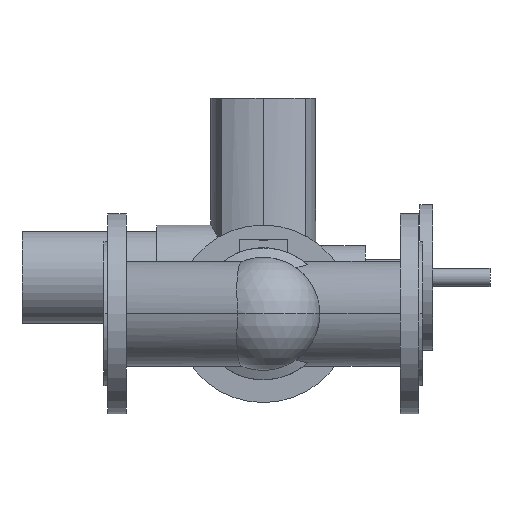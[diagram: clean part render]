
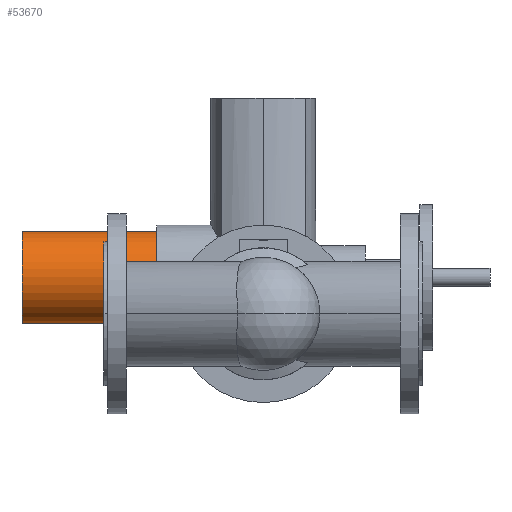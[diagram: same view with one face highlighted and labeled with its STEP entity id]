
A CAD part, front view. The second image highlights one B-rep face of the part: STEP entity #53670.
In plain terms, the highlighted cylindrical face has radius 50.5 mm (diameter 101 mm), a partial arc.
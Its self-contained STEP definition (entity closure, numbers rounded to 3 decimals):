
#53120=CARTESIAN_POINT('',(-16.,699.2,40.));
#53130=DIRECTION('',(1.,0.,0.));
#53140=DIRECTION('',(0.,0.,-1.));
#53150=AXIS2_PLACEMENT_3D('',#53120,#53130,#53140);
#53160=CYLINDRICAL_SURFACE('',#53150,50.5);
#53170=CARTESIAN_POINT('',(-16.,699.2,90.5));
#53180=DIRECTION('',(1.,0.,0.));
#53190=VECTOR('',#53180,1.);
#53200=LINE('',#53170,#53190);
#53210=CARTESIAN_POINT('',(-90.,699.2,90.5));
#53220=VERTEX_POINT('',#53210);
#53230=CARTESIAN_POINT('',(58.,699.2,90.5));
#53240=VERTEX_POINT('',#53230);
#53250=SURFACE_CURVE('',#53200,(#53160,#53160),.CURVE_3D.);
#53260=EDGE_CURVE('',#53220,#53240,#53250,.T.);
#53270=ORIENTED_EDGE('',*,*,#53260,.F.);
#53280=CARTESIAN_POINT('',(58.,699.2,40.));
#53290=DIRECTION('',(-1.,0.,0.));
#53300=DIRECTION('',(0.,0.,-1.));
#53310=AXIS2_PLACEMENT_3D('',#53280,#53290,#53300);
#53320=CIRCLE('',#53310,50.5);
#53330=CARTESIAN_POINT('',(58.,699.2,-10.5));
#53340=VERTEX_POINT('',#53330);
#53350=CARTESIAN_POINT('',(58.,699.2,-14.));
#53360=DIRECTION('',(-1.,0.,0.));
#53370=DIRECTION('',(0.,0.,-1.));
#53380=AXIS2_PLACEMENT_3D('',#53350,#53360,#53370);
#53390=PLANE('',#53380);
#53400=SURFACE_CURVE('',#53320,(#53390,#53160),.CURVE_3D.);
#53410=EDGE_CURVE('',#53340,#53240,#53400,.T.);
#53420=ORIENTED_EDGE('',*,*,#53410,.T.);
#53430=CARTESIAN_POINT('',(-16.,699.2,-10.5));
#53440=DIRECTION('',(1.,0.,0.));
#53450=VECTOR('',#53440,1.);
#53460=LINE('',#53430,#53450);
#53470=CARTESIAN_POINT('',(-90.,699.2,-10.5));
#53480=VERTEX_POINT('',#53470);
#53490=SURFACE_CURVE('',#53460,(#53160,#53160),.CURVE_3D.);
#53500=EDGE_CURVE('',#53480,#53340,#53490,.T.);
#53510=ORIENTED_EDGE('',*,*,#53500,.T.);
#53520=CARTESIAN_POINT('',(-90.,699.2,40.));
#53530=DIRECTION('',(-1.,0.,0.));
#53540=DIRECTION('',(0.,0.,-1.));
#53550=AXIS2_PLACEMENT_3D('',#53520,#53530,#53540);
#53560=CIRCLE('',#53550,50.5);
#53570=CARTESIAN_POINT('',(-90.,699.2,14.75));
#53580=DIRECTION('',(-1.,0.,0.));
#53590=DIRECTION('',(0.,0.,-1.));
#53600=AXIS2_PLACEMENT_3D('',#53570,#53580,#53590);
#53610=PLANE('',#53600);
#53620=SURFACE_CURVE('',#53560,(#53160,#53610),.CURVE_3D.);
#53630=EDGE_CURVE('',#53480,#53220,#53620,.T.);
#53640=ORIENTED_EDGE('',*,*,#53630,.F.);
#53650=EDGE_LOOP('',(#53640,#53510,#53420,#53270));
#53660=FACE_OUTER_BOUND('',#53650,.T.);
#53670=ADVANCED_FACE('',(#53660),#53160,.T.);
